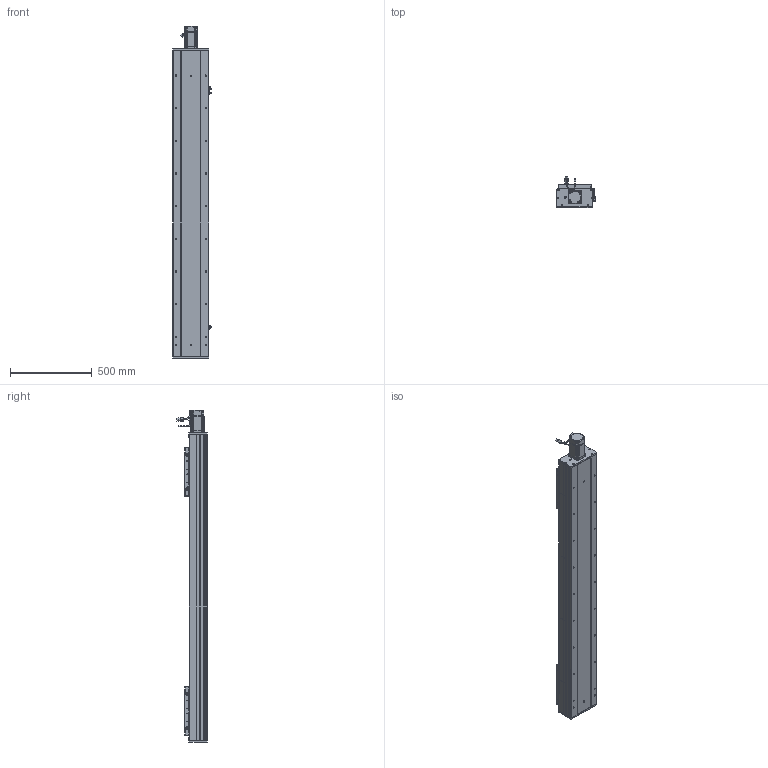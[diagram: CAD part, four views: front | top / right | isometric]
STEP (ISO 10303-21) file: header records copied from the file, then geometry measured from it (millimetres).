
FILE_DESCRIPTION (( 'STEP AP203' ), '1' );
FILE_NAME ('RY220F-L2525-300-MK.SLDASM_1450.step', '2022-07-04T01:04:10', ( '' ), ( '' ), 'SwSTEP 2.0', 'SolidWorks 2016', '' );
FILE_SCHEMA (( 'CONFIG_CONTROL_DESIGN' ));
Length unit declared in the file: millimetre
Products named in the file (15): RY220F臏賑釱25-32佪裝; 怢湛750W_ECMA-CX0807ES; RY220F綴裔啣; RY220F-L2525-300-MK.SLDASM_1450; 覜茼ん672; RY220Fヶ裔啣; RY220F菁釱MK-300_1450; 滅袉蝶18-20; RY220F-詩湍揤踡輸; RY220F-滅鳥奻裔; 滅袉蝶18-24; RY220电机支撑座FK20（PCD90M6）; RY220F-奻裔啣-300_1450; RY220F-672覜茼んえ; RY220F-祥凄詩湍-MK-300_1450
Assembly tree (23 placements, depth 2):
  RY220F-L2525-300-MK.SLDASM_1450
    RY220F菁釱MK-300_1450
    RY220电机支撑座FK20（PCD90M6）
    RY220F-奻裔啣-300_1450  x2
    怢湛750W_ECMA-CX0807ES
    RY220F臏賑釱25-32佪裝  x2
    RY220F-滅鳥奻裔  x2
    滅袉蝶18-20
    滅袉蝶18-24  x3
    RY220Fヶ裔啣
    RY220F綴裔啣
    RY220F-祥凄詩湍-MK-300_1450
    RY220F-詩湍揤踡輸  x2
    覜茼ん672  x3
    RY220F-672覜茼んえ  x2
Bounding box: 233.7 x 187.27 x 2034.3 mm (x, y, z)
Volume: 17816668 mm3; surface area: 4511835.6 mm2
Topology: 24 solids, 24 shells, 2826 faces, 7730 edges, 4770 vertices
Faces by surface type: cylinder 1286, plane 1030, cone 447, bspline 37, sphere 16, torus 10
Entity records: 70730 total; most frequent: CARTESIAN_POINT 18774, ORIENTED_EDGE 10498, DIRECTION 10294, EDGE_CURVE 5249, AXIS2_PLACEMENT_3D 3683, VERTEX_POINT 3410, VECTOR 2928, LINE 2928
